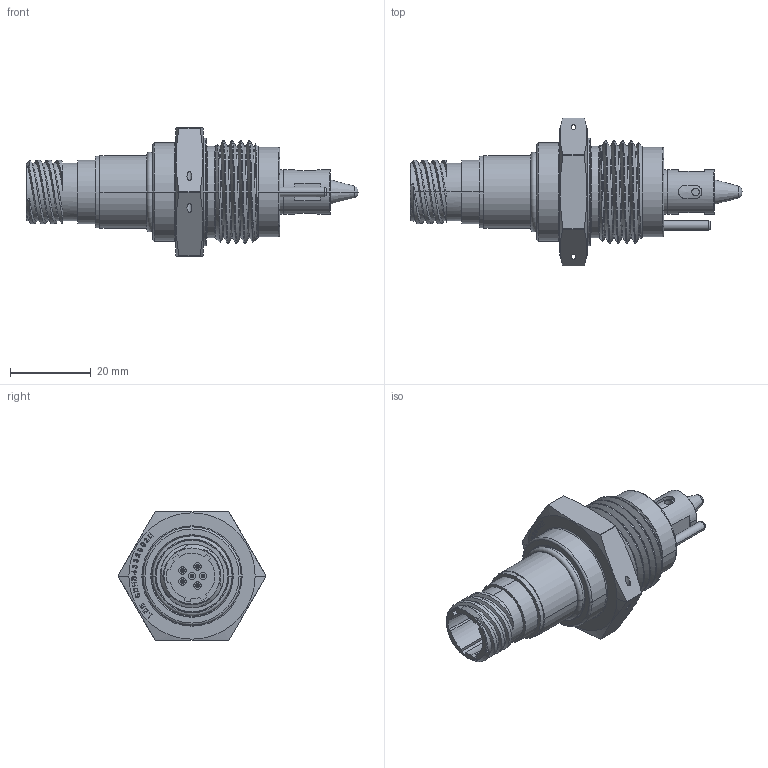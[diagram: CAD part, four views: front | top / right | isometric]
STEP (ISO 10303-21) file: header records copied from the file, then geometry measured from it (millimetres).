
FILE_DESCRIPTION(('Creo Elements/Direct Modeling STEP Export'),'2;1');
FILE_NAME('SDHB4332002E.stp','2023-01-30T 8:59:33',(''),(''),'Creo Elements/Direct Modeling STEP processor for AP214 (Solid Model)','Creo Elements/Direct Modeling 18.1 03-Mar-2012 (C) Parametric Technology GmbH','');
FILE_SCHEMA(('AUTOMOTIVE_DESIGN { 1 0 10303 214 1 1 1 1 }'));
Length unit declared in the file: millimetre
Products named in the file (1): SDHB4332002E
Bounding box: 82.1 x 36.58 x 31.75 mm (x, y, z)
Volume: 22856.1 mm3; surface area: 8247.8 mm2
Topology: 1 solids, 1 shells, 858 faces, 2380 edges, 1578 vertices
Faces by surface type: plane 661, cylinder 120, torus 38, cone 29, bspline 8, sphere 2
Entity records: 28917 total; most frequent: CARTESIAN_POINT 6824, ORIENTED_EDGE 4756, DIRECTION 3844, EDGE_CURVE 2378, VECTOR 1890, LINE 1890, VERTEX_POINT 1578, AXIS2_PLACEMENT_3D 977
